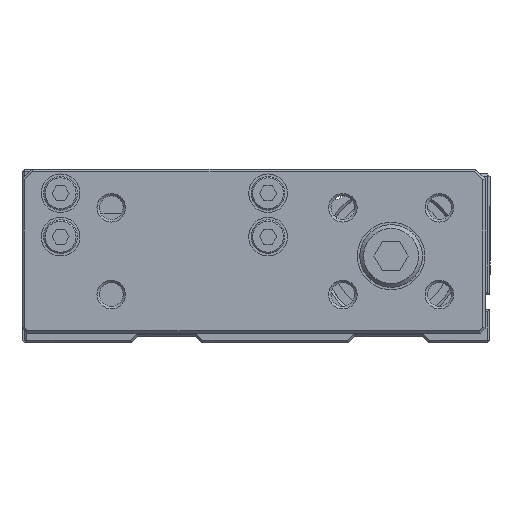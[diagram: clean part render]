
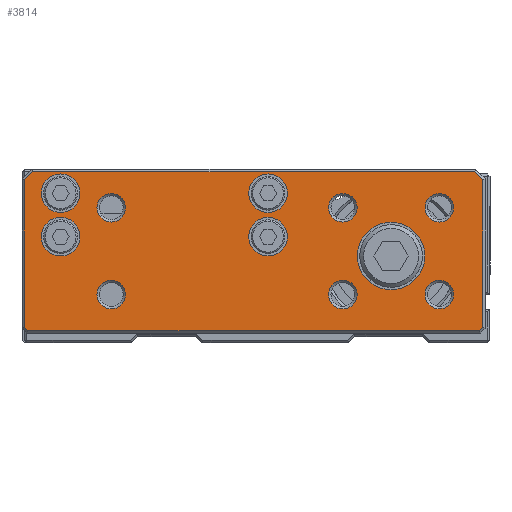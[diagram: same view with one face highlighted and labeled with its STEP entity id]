
A CAD part, front view. The second image highlights one B-rep face of the part: STEP entity #3814.
In plain terms, the highlighted planar face has unit normal (0, -1, 0).
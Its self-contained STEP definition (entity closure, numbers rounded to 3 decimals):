
#3618=CARTESIAN_POINT('',(-7.042,-15.8,10.0));
#3619=VERTEX_POINT('',#3618);
#3620=CARTESIAN_POINT('',(-10.,-15.8,10.0));
#3621=DIRECTION('',(0.0,-1.0,0.0));
#3622=DIRECTION('',(-1.0,0.0,0.0));
#3623=AXIS2_PLACEMENT_3D('',#3620,#3621,#3622);
#3624=CIRCLE('',#3623,2.959);
#3625=EDGE_CURVE('',#3619,#3619,#3624,.T.);
#3630=CARTESIAN_POINT('',(-76.5,-15.8,18.0));
#3631=DIRECTION('',(0.0,-1.0,0.0));
#3632=DIRECTION('',(0.0,0.0,-1.0));
#3633=AXIS2_PLACEMENT_3D('',#3630,#3631,#3632);
#3634=PLANE('',#3633);
#3635=CARTESIAN_POINT('',(19.,-15.8,15.793));
#3636=VERTEX_POINT('',#3635);
#3637=CARTESIAN_POINT('',(19.,-15.8,-14.793));
#3638=VERTEX_POINT('',#3637);
#3639=CARTESIAN_POINT('',(19.,-15.8,15.793));
#3640=DIRECTION('',(0.0,0.0,-1.0));
#3641=VECTOR('',#3640,30.586);
#3642=LINE('',#3639,#3641);
#3643=EDGE_CURVE('',#3636,#3638,#3642,.T.);
#3644=ORIENTED_EDGE('',*,*,#3643,.F.);
#3645=CARTESIAN_POINT('',(17.293,-15.8,17.5));
#3646=VERTEX_POINT('',#3645);
#3647=CARTESIAN_POINT('',(17.293,-15.8,17.5));
#3648=DIRECTION('',(0.707,0.,-0.707));
#3649=VECTOR('',#3648,2.414);
#3650=LINE('',#3647,#3649);
#3651=EDGE_CURVE('',#3646,#3636,#3650,.T.);
#3652=ORIENTED_EDGE('',*,*,#3651,.F.);
#3653=CARTESIAN_POINT('',(-74.293,-15.8,17.5));
#3654=VERTEX_POINT('',#3653);
#3655=CARTESIAN_POINT('',(-74.293,-15.8,17.5));
#3656=DIRECTION('',(1.0,0.0,0.0));
#3657=VECTOR('',#3656,91.586);
#3658=LINE('',#3655,#3657);
#3659=EDGE_CURVE('',#3654,#3646,#3658,.T.);
#3660=ORIENTED_EDGE('',*,*,#3659,.F.);
#3661=CARTESIAN_POINT('',(-76.,-15.8,15.793));
#3662=VERTEX_POINT('',#3661);
#3663=CARTESIAN_POINT('',(-76.,-15.8,15.793));
#3664=DIRECTION('',(0.707,0.,0.707));
#3665=VECTOR('',#3664,2.414);
#3666=LINE('',#3663,#3665);
#3667=EDGE_CURVE('',#3662,#3654,#3666,.T.);
#3668=ORIENTED_EDGE('',*,*,#3667,.F.);
#3669=CARTESIAN_POINT('',(-76.,-15.8,-14.793));
#3670=VERTEX_POINT('',#3669);
#3671=CARTESIAN_POINT('',(-76.,-15.8,-14.793));
#3672=DIRECTION('',(0.0,0.0,1.0));
#3673=VECTOR('',#3672,30.586);
#3674=LINE('',#3671,#3673);
#3675=EDGE_CURVE('',#3670,#3662,#3674,.T.);
#3676=ORIENTED_EDGE('',*,*,#3675,.F.);
#3677=CARTESIAN_POINT('',(-75.293,-15.8,-15.5));
#3678=VERTEX_POINT('',#3677);
#3679=CARTESIAN_POINT('',(-75.293,-15.8,-15.5));
#3680=DIRECTION('',(-0.707,0.,0.707));
#3681=VECTOR('',#3680,1.);
#3682=LINE('',#3679,#3681);
#3683=EDGE_CURVE('',#3678,#3670,#3682,.T.);
#3684=ORIENTED_EDGE('',*,*,#3683,.F.);
#3685=CARTESIAN_POINT('',(18.293,-15.8,-15.5));
#3686=VERTEX_POINT('',#3685);
#3687=CARTESIAN_POINT('',(18.293,-15.8,-15.5));
#3688=DIRECTION('',(-1.0,0.0,0.0));
#3689=VECTOR('',#3688,93.586);
#3690=LINE('',#3687,#3689);
#3691=EDGE_CURVE('',#3686,#3678,#3690,.T.);
#3692=ORIENTED_EDGE('',*,*,#3691,.F.);
#3693=CARTESIAN_POINT('',(19.,-15.8,-14.793));
#3694=DIRECTION('',(-0.707,0.0,-0.707));
#3695=VECTOR('',#3694,1.);
#3696=LINE('',#3693,#3695);
#3697=EDGE_CURVE('',#3638,#3686,#3696,.T.);
#3698=ORIENTED_EDGE('',*,*,#3697,.F.);
#3699=EDGE_LOOP('',(#3644,#3652,#3660,#3668,#3676,#3684,#3692,#3698));
#3700=FACE_OUTER_BOUND('',#3699,.T.);
#3701=CARTESIAN_POINT('',(-7.042,-15.8,-8.0));
#3702=VERTEX_POINT('',#3701);
#3703=CARTESIAN_POINT('',(-10.,-15.8,-8.0));
#3704=DIRECTION('',(0.0,-1.0,0.0));
#3705=DIRECTION('',(-1.0,0.0,0.0));
#3706=AXIS2_PLACEMENT_3D('',#3703,#3704,#3705);
#3707=CIRCLE('',#3706,2.959);
#3708=EDGE_CURVE('',#3702,#3702,#3707,.T.);
#3709=ORIENTED_EDGE('',*,*,#3708,.F.);
#3710=EDGE_LOOP('',(#3709));
#3711=FACE_BOUND('',#3710,.T.);
#3712=CARTESIAN_POINT('',(12.959,-15.8,-8.));
#3713=VERTEX_POINT('',#3712);
#3714=CARTESIAN_POINT('',(10.0,-15.8,-8.));
#3715=DIRECTION('',(0.0,-1.0,0.0));
#3716=DIRECTION('',(-1.0,0.0,0.0));
#3717=AXIS2_PLACEMENT_3D('',#3714,#3715,#3716);
#3718=CIRCLE('',#3717,2.959);
#3719=EDGE_CURVE('',#3713,#3713,#3718,.T.);
#3720=ORIENTED_EDGE('',*,*,#3719,.F.);
#3721=EDGE_LOOP('',(#3720));
#3722=FACE_BOUND('',#3721,.T.);
#3723=CARTESIAN_POINT('',(12.959,-15.8,10.));
#3724=VERTEX_POINT('',#3723);
#3725=CARTESIAN_POINT('',(10.0,-15.8,10.));
#3726=DIRECTION('',(0.0,-1.0,0.0));
#3727=DIRECTION('',(-1.0,0.0,0.0));
#3728=AXIS2_PLACEMENT_3D('',#3725,#3726,#3727);
#3729=CIRCLE('',#3728,2.959);
#3730=EDGE_CURVE('',#3724,#3724,#3729,.T.);
#3731=ORIENTED_EDGE('',*,*,#3730,.F.);
#3732=EDGE_LOOP('',(#3731));
#3733=FACE_BOUND('',#3732,.T.);
#3734=CARTESIAN_POINT('',(7.,-15.8,0.0));
#3735=VERTEX_POINT('',#3734);
#3736=CARTESIAN_POINT('',(0.,-15.8,0.0));
#3737=DIRECTION('',(0.0,1.0,0.0));
#3738=DIRECTION('',(1.0,0.0,0.0));
#3739=AXIS2_PLACEMENT_3D('',#3736,#3737,#3738);
#3740=CIRCLE('',#3739,7.);
#3741=EDGE_CURVE('',#3735,#3735,#3740,.T.);
#3742=ORIENTED_EDGE('',*,*,#3741,.T.);
#3743=EDGE_LOOP('',(#3742));
#3744=FACE_BOUND('',#3743,.T.);
#3745=CARTESIAN_POINT('',(-64.5,-15.8,13.));
#3746=VERTEX_POINT('',#3745);
#3747=CARTESIAN_POINT('',(-68.5,-15.8,13.));
#3748=DIRECTION('',(0.0,1.0,0.0));
#3749=DIRECTION('',(1.0,0.0,0.0));
#3750=AXIS2_PLACEMENT_3D('',#3747,#3748,#3749);
#3751=CIRCLE('',#3750,4.0);
#3752=EDGE_CURVE('',#3746,#3746,#3751,.T.);
#3753=ORIENTED_EDGE('',*,*,#3752,.T.);
#3754=EDGE_LOOP('',(#3753));
#3755=FACE_BOUND('',#3754,.T.);
#3756=CARTESIAN_POINT('',(-64.5,-15.8,4.));
#3757=VERTEX_POINT('',#3756);
#3758=CARTESIAN_POINT('',(-68.5,-15.8,4.));
#3759=DIRECTION('',(0.0,1.0,0.0));
#3760=DIRECTION('',(1.0,0.0,0.0));
#3761=AXIS2_PLACEMENT_3D('',#3758,#3759,#3760);
#3762=CIRCLE('',#3761,4.0);
#3763=EDGE_CURVE('',#3757,#3757,#3762,.T.);
#3764=ORIENTED_EDGE('',*,*,#3763,.T.);
#3765=EDGE_LOOP('',(#3764));
#3766=FACE_BOUND('',#3765,.T.);
#3767=CARTESIAN_POINT('',(-21.5,-15.8,13.));
#3768=VERTEX_POINT('',#3767);
#3769=CARTESIAN_POINT('',(-25.5,-15.8,13.));
#3770=DIRECTION('',(0.0,1.0,0.0));
#3771=DIRECTION('',(1.0,0.0,0.0));
#3772=AXIS2_PLACEMENT_3D('',#3769,#3770,#3771);
#3773=CIRCLE('',#3772,4.0);
#3774=EDGE_CURVE('',#3768,#3768,#3773,.T.);
#3775=ORIENTED_EDGE('',*,*,#3774,.T.);
#3776=EDGE_LOOP('',(#3775));
#3777=FACE_BOUND('',#3776,.T.);
#3778=CARTESIAN_POINT('',(-21.5,-15.8,4.));
#3779=VERTEX_POINT('',#3778);
#3780=CARTESIAN_POINT('',(-25.5,-15.8,4.));
#3781=DIRECTION('',(0.0,1.0,0.0));
#3782=DIRECTION('',(1.0,0.0,0.0));
#3783=AXIS2_PLACEMENT_3D('',#3780,#3781,#3782);
#3784=CIRCLE('',#3783,4.0);
#3785=EDGE_CURVE('',#3779,#3779,#3784,.T.);
#3786=ORIENTED_EDGE('',*,*,#3785,.T.);
#3787=EDGE_LOOP('',(#3786));
#3788=FACE_BOUND('',#3787,.T.);
#3789=CARTESIAN_POINT('',(-55.042,-15.8,-8.));
#3790=VERTEX_POINT('',#3789);
#3791=CARTESIAN_POINT('',(-58.,-15.8,-8.));
#3792=DIRECTION('',(0.0,-1.0,0.0));
#3793=DIRECTION('',(-1.0,0.0,0.0));
#3794=AXIS2_PLACEMENT_3D('',#3791,#3792,#3793);
#3795=CIRCLE('',#3794,2.958);
#3796=EDGE_CURVE('',#3790,#3790,#3795,.T.);
#3797=ORIENTED_EDGE('',*,*,#3796,.F.);
#3798=EDGE_LOOP('',(#3797));
#3799=FACE_BOUND('',#3798,.T.);
#3800=CARTESIAN_POINT('',(-55.042,-15.8,10.));
#3801=VERTEX_POINT('',#3800);
#3802=CARTESIAN_POINT('',(-58.,-15.8,10.));
#3803=DIRECTION('',(0.0,-1.0,0.0));
#3804=DIRECTION('',(-1.0,0.0,0.0));
#3805=AXIS2_PLACEMENT_3D('',#3802,#3803,#3804);
#3806=CIRCLE('',#3805,2.958);
#3807=EDGE_CURVE('',#3801,#3801,#3806,.T.);
#3808=ORIENTED_EDGE('',*,*,#3807,.F.);
#3809=EDGE_LOOP('',(#3808));
#3810=FACE_BOUND('',#3809,.T.);
#3811=ORIENTED_EDGE('',*,*,#3625,.F.);
#3812=EDGE_LOOP('',(#3811));
#3813=FACE_BOUND('',#3812,.T.);
#3814=ADVANCED_FACE('',(#3700,#3711,#3722,#3733,#3744,#3755,#3766,#3777,#3788,#3799,#3810,#3813),#3634,.T.);
